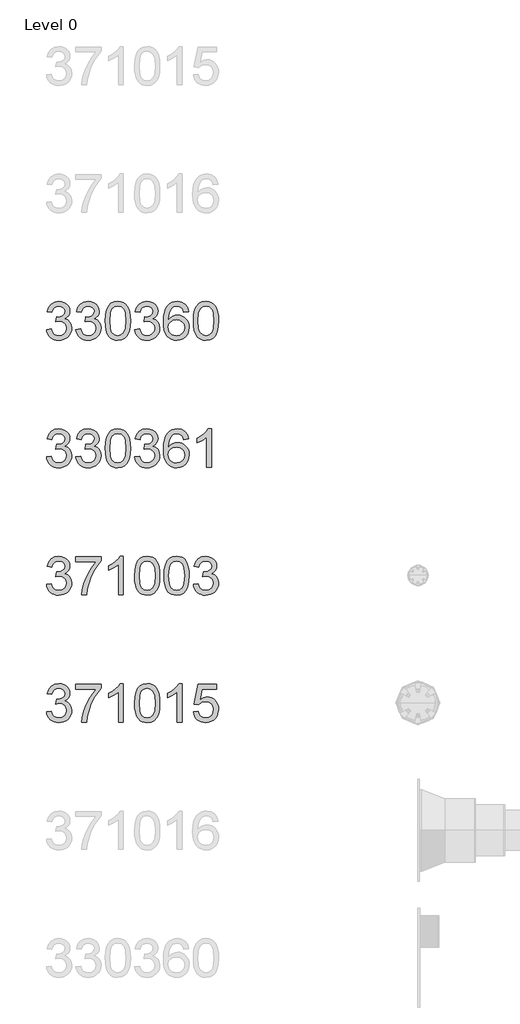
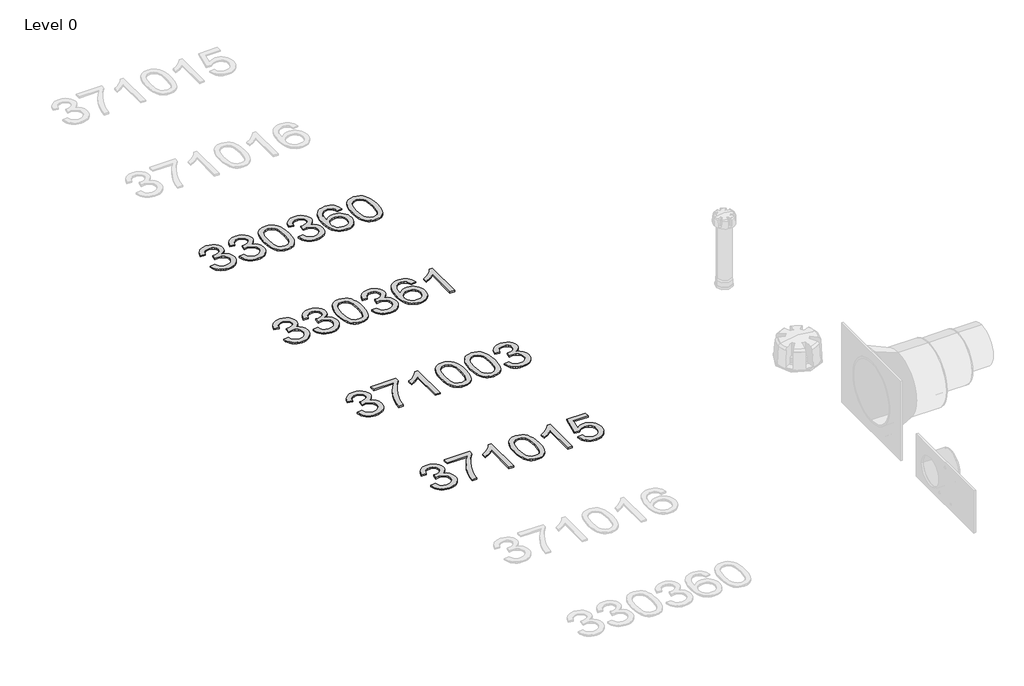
# One storey, part 12 of 25: 4 proxies.
"""IFC4 building model written with IfcOpenShell, lengths in millimetres."""

from ifc_helpers import new_model, si_unit, origin, origin_with_axes, place, context, project, spatial, polyline, outline, extrude, element, save

model = new_model("IFC4")

# Units and contexts
model_context = context("Model", 3, world=origin())
ifc_project = project(units=[si_unit("LENGTHUNIT", "METRE", prefix="MILLI")], contexts=[model_context])

# Site, building, storey
site = spatial("IfcSite", under=ifc_project)
building = spatial("IfcBuilding", under=site)
storey = spatial("IfcBuildingStorey", under=building, Name="Level 0", Elevation=0.0)

# Proxies
placement = place(None, origin())
element("IfcBuildingElementProxy", 1, Name="300mm Arial", ObjectType="300mm Arial", at=placement, inside=storey, context=model_context, shape_type="SweptSolid", body=[
    extrude(outline(polyline([(-3192.0538732, -4120.925676), (-3154.3827568, -4116.2167865), (-3145.9490621, -4139.8899929), (-3133.5974241, -4155.8744656), (-3116.7208376, -4164.979545), (-3094.7122972, -4168.0145714), (-3068.8869812, -4163.8391108), (-3048.947777, -4151.3127288), (-3036.2006659, -4132.6243235), (-3031.9516289, -4109.9627926), (-3036.1638777, -4088.4508929), (-3048.8006242, -4071.0040893), (-3067.930488, -4059.4433976), (-3091.6220885, -4055.5898337), (-3118.0360157, -4059.710112), (-3113.842161, -4022.0389957), (-3107.8088963, -4022.4804541), (-3085.2393359, -4019.7765215), (-3065.0610084, -4011.6647235), (-3050.8239752, -3997.942725), (-3046.0782975, -3978.4081911), (-3049.5179941, -3962.1386099), (-3059.8370841, -3948.9408433), (-3075.5824335, -3940.1944488), (-3095.3009084, -3937.278984), (-3115.0561716, -3940.22204), (-3131.2061912, -3949.0512079), (-3142.9968091, -3963.7664877), (-3149.6738673, -3984.3678794), (-3187.3449836, -3979.6589899), (-3176.2533415, -3945.8322404), (-3156.5164724, -3920.5771415), (-3129.513934, -3904.8501862), (-3096.6252836, -3899.6078677), (-3072.9428802, -3902.1922387), (-3051.1918572, -3909.9453518), (-3032.8529397, -3922.1774281), (-3019.4068528, -3938.198689), (-3011.1570991, -3956.6571681), (-3008.4071812, -3976.2008991), (-3011.0191433, -3994.4110579), (-3018.8550298, -4010.9289595), (-3031.8044761, -4025.0004458), (-3049.7571174, -4035.8713587), (-3026.1758815, -4045.3995024), (-3008.7014868, -4061.6230984), (-2997.8857561, -4083.6592299), (-2994.2805125, -4110.6249802), (-2996.0831343, -4129.7364498), (-3001.4909997, -4147.3396033), (-3010.5041085, -4163.4344406), (-3023.122461, -4178.0209617), (-3038.4953298, -4190.1242793), (-3055.771988, -4198.7695062), (-3074.9524356, -4203.9566423), (-3096.0366724, -4205.6856877), (-3115.0929598, -4204.2095612), (-3132.4569899, -4199.7811817), (-3148.1287629, -4192.4005492), (-3162.1082787, -4182.0676636), (-3173.8299188, -4169.3895304), (-3182.7280646, -4154.9731547), (-3188.802716, -4138.8185366), (-3192.0538732, -4120.925676)])), origin_with_axes(), (0.0, 0.0, 1.0), 10.0),
    extrude(outline(polyline([(-2961.3182858, -4120.925676), (-2923.6471695, -4116.2167865), (-2915.2134747, -4139.8899929), (-2902.8618367, -4155.8744656), (-2885.9852502, -4164.979545), (-2863.9767099, -4168.0145714), (-2838.1513938, -4163.8391108), (-2818.2121897, -4151.3127288), (-2805.4650785, -4132.6243235), (-2801.2160415, -4109.9627926), (-2805.4282903, -4088.4508929), (-2818.0650369, -4071.0040893), (-2837.1949006, -4059.4433976), (-2860.8865011, -4055.5898337), (-2887.3004284, -4059.710112), (-2883.1065736, -4022.0389957), (-2877.0733089, -4022.4804541), (-2854.5037485, -4019.7765215), (-2834.325421, -4011.6647235), (-2820.0883878, -3997.942725), (-2815.3427101, -3978.4081911), (-2818.7824067, -3962.1386099), (-2829.1014967, -3948.9408433), (-2844.8468461, -3940.1944488), (-2864.565321, -3937.278984), (-2884.3205842, -3940.22204), (-2900.4706038, -3949.0512079), (-2912.2612217, -3963.7664877), (-2918.9382799, -3984.3678794), (-2956.6093962, -3979.6589899), (-2945.5177541, -3945.8322404), (-2925.780885, -3920.5771415), (-2898.7783466, -3904.8501862), (-2865.8896962, -3899.6078677), (-2842.2072928, -3902.1922387), (-2820.4562698, -3909.9453518), (-2802.1173524, -3922.1774281), (-2788.6712654, -3938.198689), (-2780.4215117, -3956.6571681), (-2777.6715938, -3976.2008991), (-2780.283556, -3994.4110579), (-2788.1194425, -4010.9289595), (-2801.0688887, -4025.0004458), (-2819.02153, -4035.8713587), (-2795.4402942, -4045.3995024), (-2777.9658994, -4061.6230984), (-2767.1501687, -4083.6592299), (-2763.5449252, -4110.6249802), (-2765.3475469, -4129.7364498), (-2770.7554123, -4147.3396033), (-2779.7685212, -4163.4344406), (-2792.3868736, -4178.0209617), (-2807.7597425, -4190.1242793), (-2825.0364007, -4198.7695062), (-2844.2168482, -4203.9566423), (-2865.301085, -4205.6856877), (-2884.3573724, -4204.2095612), (-2901.7214026, -4199.7811817), (-2917.3931756, -4192.4005492), (-2931.3726914, -4182.0676636), (-2943.0943314, -4169.3895304), (-2951.9924772, -4154.9731547), (-2958.0671286, -4138.8185366), (-2961.3182858, -4120.925676)])), origin_with_axes(), (0.0, 0.0, 1.0), 10.0),
    extrude(outline(polyline([(-2730.5826984, -4052.7203541), (-2727.8143864, -4004.4818275), (-2719.5094504, -3966.0105679), (-2705.7506637, -3936.717964), (-2686.6208, -3916.0154047), (-2661.9819034, -3903.709752), (-2631.6960181, -3899.6078677), (-2608.4826642, -3902.0358889), (-2587.6973315, -3909.3199524), (-2570.3149072, -3921.1749497), (-2557.3102787, -3937.3157722), (-2547.4878294, -3957.6044643), (-2539.6519429, -3981.9030701), (-2534.5199891, -4012.7591724), (-2532.8093378, -4052.7203541), (-2535.5500587, -4100.6829692), (-2543.7722213, -4139.0622584), (-2557.4482344, -4168.3824534), (-2576.550507, -4189.1677861), (-2601.244586, -4201.5562123), (-2631.6960181, -4205.6856877), (-2652.4445626, -4203.892263), (-2670.8386624, -4198.5119888), (-2686.8783174, -4189.5448652), (-2700.5635276, -4176.9908921), (-2713.6969148, -4154.2971715), (-2723.0779057, -4126.0208417), (-2728.7065002, -4092.1619025), (-2730.5826984, -4052.7203541)]), holes=[polyline([(-2692.9115821, -4052.6467777), (-2688.4969982, -4111.9033701), (-2682.9787682, -4132.1713688), (-2675.2532463, -4146.1991691), (-2655.5347714, -4162.5607208), (-2631.6960181, -4168.0145714), (-2607.8572648, -4162.5423267), (-2588.1387899, -4146.1255927), (-2580.413268, -4132.0747997), (-2574.895038, -4111.8113996), (-2570.4804541, -4052.6467777), (-2574.7478852, -3994.7237576), (-2580.0821742, -3974.5224375), (-2587.5501787, -3960.1612441), (-2607.2318654, -3942.9995491), (-2632.1374765, -3937.278984), (-2655.7187124, -3942.3189674), (-2674.6646351, -3957.4389174), (-2682.6476744, -3973.0739022), (-2688.3498454, -3994.1535405), (-2692.9115821, -4052.6467777)])]), origin_with_axes(), (0.0, 0.0, 1.0), 10.0),
    extrude(outline(polyline([(-2499.847111, -4120.925676), (-2462.1759947, -4116.2167865), (-2453.7423, -4139.8899929), (-2441.390662, -4155.8744656), (-2424.5140755, -4164.979545), (-2402.5055351, -4168.0145714), (-2376.680219, -4163.8391108), (-2356.7410149, -4151.3127288), (-2343.9939038, -4132.6243235), (-2339.7448667, -4109.9627926), (-2343.9571156, -4088.4508929), (-2356.5938621, -4071.0040893), (-2375.7237259, -4059.4433976), (-2399.4153263, -4055.5898337), (-2425.8292536, -4059.710112), (-2421.6353989, -4022.0389957), (-2415.6021341, -4022.4804541), (-2393.0325737, -4019.7765215), (-2372.8542463, -4011.6647235), (-2358.6172131, -3997.942725), (-2353.8715353, -3978.4081911), (-2357.311232, -3962.1386099), (-2367.630322, -3948.9408433), (-2383.3756714, -3940.1944488), (-2403.0941463, -3937.278984), (-2422.8494094, -3940.22204), (-2438.999429, -3949.0512079), (-2450.790047, -3963.7664877), (-2457.4671052, -3984.3678794), (-2495.1382215, -3979.6589899), (-2484.0465793, -3945.8322404), (-2464.3097103, -3920.5771415), (-2437.3071719, -3904.8501862), (-2404.4185215, -3899.6078677), (-2380.736118, -3902.1922387), (-2358.9850951, -3909.9453518), (-2340.6461776, -3922.1774281), (-2327.2000907, -3938.198689), (-2318.950337, -3956.6571681), (-2316.200419, -3976.2008991), (-2318.8123812, -3994.4110579), (-2326.6482677, -4010.9289595), (-2339.5977139, -4025.0004458), (-2357.5503553, -4035.8713587), (-2333.9691194, -4045.3995024), (-2316.4947246, -4061.6230984), (-2305.678994, -4083.6592299), (-2302.0737504, -4110.6249802), (-2303.8763722, -4129.7364498), (-2309.2842375, -4147.3396033), (-2318.2973464, -4163.4344406), (-2330.9156988, -4178.0209617), (-2346.2885677, -4190.1242793), (-2363.5652259, -4198.7695062), (-2382.7456734, -4203.9566423), (-2403.8299103, -4205.6856877), (-2422.8861976, -4204.2095612), (-2440.2502278, -4199.7811817), (-2455.9220008, -4192.4005492), (-2469.9015166, -4182.0676636), (-2481.6231567, -4169.3895304), (-2490.5213025, -4154.9731547), (-2496.5959539, -4138.8185366), (-2499.847111, -4120.925676)])), origin_with_axes(), (0.0, 0.0, 1.0), 10.0),
    extrude(outline(polyline([(-2076.0470526, -3979.6589899), (-2113.7181689, -3984.3678794), (-2119.7882218, -3965.6978682), (-2127.9919903, -3952.950757), (-2145.080109, -3941.1969273), (-2165.736683, -3937.278984), (-2183.247866, -3939.5598524), (-2199.7289794, -3946.4024575), (-2213.8832391, -3960.8142347), (-2225.4439308, -3980.6522713), (-2233.2522262, -4008.7124704), (-2236.1492969, -4047.7907354), (-2221.0385439, -4030.1599908), (-2202.9295527, -4017.7347764), (-2182.8339987, -4010.3679394), (-2161.7635575, -4007.9123271), (-2143.6637633, -4009.5907887), (-2126.9619207, -4014.6261735), (-2111.6580297, -4023.0184815), (-2097.7520903, -4034.7677128), (-2086.1959971, -4049.1748914), (-2077.9416449, -4065.5410417), (-2072.9890335, -4083.8661635), (-2071.338163, -4104.150257), (-2074.4467659, -4131.1252043), (-2083.7725745, -4156.131983), (-2098.5430366, -4177.34038), (-2117.9856, -4192.9201825), (-2141.217348, -4202.4943114), (-2167.3553638, -4205.6856877), (-2189.8122603, -4203.5703662), (-2210.0940546, -4197.2244018), (-2228.2007465, -4186.6477945), (-2244.1323362, -4171.8405442), (-2257.1208699, -4152.1772515), (-2266.3983939, -4127.0325171), (-2271.9649084, -4096.406341), (-2273.8204132, -4060.2987232), (-2271.760274, -4019.8179082), (-2265.5798565, -3985.2691903), (-2255.2791606, -3956.6525696), (-2240.8581864, -3933.9680461), (-2225.2278002, -3918.9354681), (-2207.1050134, -3908.1979123), (-2186.4898261, -3901.7553789), (-2163.3822382, -3899.6078677), (-2130.328041, -3904.9237626), (-2103.8589314, -3920.8714471), (-2085.3176789, -3946.2001224), (-2076.0470526, -3979.6589899)]), holes=[polyline([(-2236.1492969, -4103.5616459), (-2233.9695961, -4120.2542914), (-2227.4304936, -4136.1927788), (-2217.2769505, -4149.8963831), (-2204.2539279, -4159.8843793), (-2188.5361697, -4165.9820234), (-2170.2984198, -4168.0145714), (-2145.4387939, -4163.8023226), (-2125.8950629, -4151.165576), (-2113.2307252, -4131.2999483), (-2109.0092794, -4105.4010558), (-2113.175543, -4080.54143), (-2125.6743337, -4061.5863102), (-2145.5491585, -4049.5841601), (-2171.8435241, -4045.5834434), (-2196.6663618, -4049.5841601), (-2217.4241033, -4061.5863102), (-2231.4679985, -4080.0815775), (-2236.1492969, -4103.5616459)])]), origin_with_axes(), (0.0, 0.0, 1.0), 10.0),
    extrude(outline(polyline([(-2038.3759363, -4052.7203541), (-2035.6076243, -4004.4818275), (-2027.3026882, -3966.0105679), (-2013.5439016, -3936.717964), (-1994.4140379, -3916.0154047), (-1969.7751412, -3903.709752), (-1939.489256, -3899.6078677), (-1916.2759021, -3902.0358889), (-1895.4905694, -3909.3199524), (-1878.1081451, -3921.1749497), (-1865.1035166, -3937.3157722), (-1855.2810673, -3957.6044643), (-1847.4451808, -3981.9030701), (-1842.313227, -4012.7591724), (-1840.6025757, -4052.7203541), (-1843.3432965, -4100.6829692), (-1851.5654591, -4139.0622584), (-1865.2414723, -4168.3824534), (-1884.3437449, -4189.1677861), (-1909.0378238, -4201.5562123), (-1939.489256, -4205.6856877), (-1960.2378005, -4203.892263), (-1978.6319003, -4198.5119888), (-1994.6715553, -4189.5448652), (-2008.3567655, -4176.9908921), (-2021.4901527, -4154.2971715), (-2030.8711436, -4126.0208417), (-2036.4997381, -4092.1619025), (-2038.3759363, -4052.7203541)]), holes=[polyline([(-2000.70482, -4052.6467777), (-1996.290236, -4111.9033701), (-1990.7720061, -4132.1713688), (-1983.0464842, -4146.1991691), (-1963.3280093, -4162.5607208), (-1939.489256, -4168.0145714), (-1915.6505027, -4162.5423267), (-1895.9320277, -4146.1255927), (-1888.2065058, -4132.0747997), (-1882.6882759, -4111.8113996), (-1878.273692, -4052.6467777), (-1882.5411231, -3994.7237576), (-1887.8754121, -3974.5224375), (-1895.3434166, -3960.1612441), (-1915.0251033, -3942.9995491), (-1939.9307144, -3937.278984), (-1963.5119503, -3942.3189674), (-1982.457873, -3957.4389174), (-1990.4409123, -3973.0739022), (-1996.1430832, -3994.1535405), (-2000.70482, -4052.6467777)])]), origin_with_axes(), (0.0, 0.0, 1.0), 10.0),
])
element("IfcBuildingElementProxy", 2, Name="300mm Arial", ObjectType="300mm Arial", at=placement, inside=storey, context=model_context, shape_type="SweptSolid", body=[
    extrude(outline(polyline([(-3192.0538732, -5120.925676), (-3154.3827568, -5116.2167865), (-3145.9490621, -5139.8899929), (-3133.5974241, -5155.8744656), (-3116.7208376, -5164.979545), (-3094.7122972, -5168.0145714), (-3068.8869812, -5163.8391108), (-3048.947777, -5151.3127288), (-3036.2006659, -5132.6243235), (-3031.9516289, -5109.9627926), (-3036.1638777, -5088.4508929), (-3048.8006242, -5071.0040893), (-3067.930488, -5059.4433976), (-3091.6220885, -5055.5898337), (-3118.0360157, -5059.710112), (-3113.842161, -5022.0389957), (-3107.8088963, -5022.4804541), (-3085.2393359, -5019.7765215), (-3065.0610084, -5011.6647235), (-3050.8239752, -4997.942725), (-3046.0782975, -4978.4081911), (-3049.5179941, -4962.1386099), (-3059.8370841, -4948.9408433), (-3075.5824335, -4940.1944488), (-3095.3009084, -4937.278984), (-3115.0561716, -4940.22204), (-3131.2061912, -4949.0512079), (-3142.9968091, -4963.7664877), (-3149.6738673, -4984.3678794), (-3187.3449836, -4979.6589899), (-3176.2533415, -4945.8322404), (-3156.5164724, -4920.5771415), (-3129.513934, -4904.8501862), (-3096.6252836, -4899.6078677), (-3072.9428802, -4902.1922387), (-3051.1918572, -4909.9453518), (-3032.8529397, -4922.1774281), (-3019.4068528, -4938.198689), (-3011.1570991, -4956.6571681), (-3008.4071812, -4976.2008991), (-3011.0191433, -4994.4110579), (-3018.8550298, -5010.9289595), (-3031.8044761, -5025.0004458), (-3049.7571174, -5035.8713587), (-3026.1758815, -5045.3995024), (-3008.7014868, -5061.6230984), (-2997.8857561, -5083.6592299), (-2994.2805125, -5110.6249802), (-2996.0831343, -5129.7364498), (-3001.4909997, -5147.3396033), (-3010.5041085, -5163.4344406), (-3023.122461, -5178.0209617), (-3038.4953298, -5190.1242793), (-3055.771988, -5198.7695062), (-3074.9524356, -5203.9566423), (-3096.0366724, -5205.6856877), (-3115.0929598, -5204.2095612), (-3132.4569899, -5199.7811817), (-3148.1287629, -5192.4005492), (-3162.1082787, -5182.0676636), (-3173.8299188, -5169.3895304), (-3182.7280646, -5154.9731547), (-3188.802716, -5138.8185366), (-3192.0538732, -5120.925676)])), origin_with_axes(), (0.0, 0.0, 1.0), 10.0),
    extrude(outline(polyline([(-2961.3182858, -5120.925676), (-2923.6471695, -5116.2167865), (-2915.2134747, -5139.8899929), (-2902.8618367, -5155.8744656), (-2885.9852502, -5164.979545), (-2863.9767099, -5168.0145714), (-2838.1513938, -5163.8391108), (-2818.2121897, -5151.3127288), (-2805.4650785, -5132.6243235), (-2801.2160415, -5109.9627926), (-2805.4282903, -5088.4508929), (-2818.0650369, -5071.0040893), (-2837.1949006, -5059.4433976), (-2860.8865011, -5055.5898337), (-2887.3004284, -5059.710112), (-2883.1065736, -5022.0389957), (-2877.0733089, -5022.4804541), (-2854.5037485, -5019.7765215), (-2834.325421, -5011.6647235), (-2820.0883878, -4997.942725), (-2815.3427101, -4978.4081911), (-2818.7824067, -4962.1386099), (-2829.1014967, -4948.9408433), (-2844.8468461, -4940.1944488), (-2864.565321, -4937.278984), (-2884.3205842, -4940.22204), (-2900.4706038, -4949.0512079), (-2912.2612217, -4963.7664877), (-2918.9382799, -4984.3678794), (-2956.6093962, -4979.6589899), (-2945.5177541, -4945.8322404), (-2925.780885, -4920.5771415), (-2898.7783466, -4904.8501862), (-2865.8896962, -4899.6078677), (-2842.2072928, -4902.1922387), (-2820.4562698, -4909.9453518), (-2802.1173524, -4922.1774281), (-2788.6712654, -4938.198689), (-2780.4215117, -4956.6571681), (-2777.6715938, -4976.2008991), (-2780.283556, -4994.4110579), (-2788.1194425, -5010.9289595), (-2801.0688887, -5025.0004458), (-2819.02153, -5035.8713587), (-2795.4402942, -5045.3995024), (-2777.9658994, -5061.6230984), (-2767.1501687, -5083.6592299), (-2763.5449252, -5110.6249802), (-2765.3475469, -5129.7364498), (-2770.7554123, -5147.3396033), (-2779.7685212, -5163.4344406), (-2792.3868736, -5178.0209617), (-2807.7597425, -5190.1242793), (-2825.0364007, -5198.7695062), (-2844.2168482, -5203.9566423), (-2865.301085, -5205.6856877), (-2884.3573724, -5204.2095612), (-2901.7214026, -5199.7811817), (-2917.3931756, -5192.4005492), (-2931.3726914, -5182.0676636), (-2943.0943314, -5169.3895304), (-2951.9924772, -5154.9731547), (-2958.0671286, -5138.8185366), (-2961.3182858, -5120.925676)])), origin_with_axes(), (0.0, 0.0, 1.0), 10.0),
    extrude(outline(polyline([(-2730.5826984, -5052.7203541), (-2727.8143864, -5004.4818275), (-2719.5094504, -4966.0105679), (-2705.7506637, -4936.717964), (-2686.6208, -4916.0154047), (-2661.9819034, -4903.709752), (-2631.6960181, -4899.6078677), (-2608.4826642, -4902.0358889), (-2587.6973315, -4909.3199524), (-2570.3149072, -4921.1749497), (-2557.3102787, -4937.3157722), (-2547.4878294, -4957.6044643), (-2539.6519429, -4981.9030701), (-2534.5199891, -5012.7591724), (-2532.8093378, -5052.7203541), (-2535.5500587, -5100.6829692), (-2543.7722213, -5139.0622584), (-2557.4482344, -5168.3824534), (-2576.550507, -5189.1677861), (-2601.244586, -5201.5562123), (-2631.6960181, -5205.6856877), (-2652.4445626, -5203.892263), (-2670.8386624, -5198.5119888), (-2686.8783174, -5189.5448652), (-2700.5635276, -5176.9908921), (-2713.6969148, -5154.2971715), (-2723.0779057, -5126.0208417), (-2728.7065002, -5092.1619025), (-2730.5826984, -5052.7203541)]), holes=[polyline([(-2692.9115821, -5052.6467777), (-2688.4969982, -5111.9033701), (-2682.9787682, -5132.1713688), (-2675.2532463, -5146.1991691), (-2655.5347714, -5162.5607208), (-2631.6960181, -5168.0145714), (-2607.8572648, -5162.5423267), (-2588.1387899, -5146.1255927), (-2580.413268, -5132.0747997), (-2574.895038, -5111.8113996), (-2570.4804541, -5052.6467777), (-2574.7478852, -4994.7237576), (-2580.0821742, -4974.5224375), (-2587.5501787, -4960.1612441), (-2607.2318654, -4942.9995491), (-2632.1374765, -4937.278984), (-2655.7187124, -4942.3189674), (-2674.6646351, -4957.4389174), (-2682.6476744, -4973.0739022), (-2688.3498454, -4994.1535405), (-2692.9115821, -5052.6467777)])]), origin_with_axes(), (0.0, 0.0, 1.0), 10.0),
    extrude(outline(polyline([(-2499.847111, -5120.925676), (-2462.1759947, -5116.2167865), (-2453.7423, -5139.8899929), (-2441.390662, -5155.8744656), (-2424.5140755, -5164.979545), (-2402.5055351, -5168.0145714), (-2376.680219, -5163.8391108), (-2356.7410149, -5151.3127288), (-2343.9939038, -5132.6243235), (-2339.7448667, -5109.9627926), (-2343.9571156, -5088.4508929), (-2356.5938621, -5071.0040893), (-2375.7237259, -5059.4433976), (-2399.4153263, -5055.5898337), (-2425.8292536, -5059.710112), (-2421.6353989, -5022.0389957), (-2415.6021341, -5022.4804541), (-2393.0325737, -5019.7765215), (-2372.8542463, -5011.6647235), (-2358.6172131, -4997.942725), (-2353.8715353, -4978.4081911), (-2357.311232, -4962.1386099), (-2367.630322, -4948.9408433), (-2383.3756714, -4940.1944488), (-2403.0941463, -4937.278984), (-2422.8494094, -4940.22204), (-2438.999429, -4949.0512079), (-2450.790047, -4963.7664877), (-2457.4671052, -4984.3678794), (-2495.1382215, -4979.6589899), (-2484.0465793, -4945.8322404), (-2464.3097103, -4920.5771415), (-2437.3071719, -4904.8501862), (-2404.4185215, -4899.6078677), (-2380.736118, -4902.1922387), (-2358.9850951, -4909.9453518), (-2340.6461776, -4922.1774281), (-2327.2000907, -4938.198689), (-2318.950337, -4956.6571681), (-2316.200419, -4976.2008991), (-2318.8123812, -4994.4110579), (-2326.6482677, -5010.9289595), (-2339.5977139, -5025.0004458), (-2357.5503553, -5035.8713587), (-2333.9691194, -5045.3995024), (-2316.4947246, -5061.6230984), (-2305.678994, -5083.6592299), (-2302.0737504, -5110.6249802), (-2303.8763722, -5129.7364498), (-2309.2842375, -5147.3396033), (-2318.2973464, -5163.4344406), (-2330.9156988, -5178.0209617), (-2346.2885677, -5190.1242793), (-2363.5652259, -5198.7695062), (-2382.7456734, -5203.9566423), (-2403.8299103, -5205.6856877), (-2422.8861976, -5204.2095612), (-2440.2502278, -5199.7811817), (-2455.9220008, -5192.4005492), (-2469.9015166, -5182.0676636), (-2481.6231567, -5169.3895304), (-2490.5213025, -5154.9731547), (-2496.5959539, -5138.8185366), (-2499.847111, -5120.925676)])), origin_with_axes(), (0.0, 0.0, 1.0), 10.0),
    extrude(outline(polyline([(-2076.0470526, -4979.6589899), (-2113.7181689, -4984.3678794), (-2119.7882218, -4965.6978682), (-2127.9919903, -4952.950757), (-2145.080109, -4941.1969273), (-2165.736683, -4937.278984), (-2183.247866, -4939.5598524), (-2199.7289794, -4946.4024575), (-2213.8832391, -4960.8142347), (-2225.4439308, -4980.6522713), (-2233.2522262, -5008.7124704), (-2236.1492969, -5047.7907354), (-2221.0385439, -5030.1599908), (-2202.9295527, -5017.7347764), (-2182.8339987, -5010.3679394), (-2161.7635575, -5007.9123271), (-2143.6637633, -5009.5907887), (-2126.9619207, -5014.6261735), (-2111.6580297, -5023.0184815), (-2097.7520903, -5034.7677128), (-2086.1959971, -5049.1748914), (-2077.9416449, -5065.5410417), (-2072.9890335, -5083.8661635), (-2071.338163, -5104.150257), (-2074.4467659, -5131.1252043), (-2083.7725745, -5156.131983), (-2098.5430366, -5177.34038), (-2117.9856, -5192.9201825), (-2141.217348, -5202.4943114), (-2167.3553638, -5205.6856877), (-2189.8122603, -5203.5703662), (-2210.0940546, -5197.2244018), (-2228.2007465, -5186.6477945), (-2244.1323362, -5171.8405442), (-2257.1208699, -5152.1772515), (-2266.3983939, -5127.0325171), (-2271.9649084, -5096.406341), (-2273.8204132, -5060.2987232), (-2271.760274, -5019.8179082), (-2265.5798565, -4985.2691903), (-2255.2791606, -4956.6525696), (-2240.8581864, -4933.9680461), (-2225.2278002, -4918.9354681), (-2207.1050134, -4908.1979123), (-2186.4898261, -4901.7553789), (-2163.3822382, -4899.6078677), (-2130.328041, -4904.9237626), (-2103.8589314, -4920.8714471), (-2085.3176789, -4946.2001224), (-2076.0470526, -4979.6589899)]), holes=[polyline([(-2236.1492969, -5103.5616459), (-2233.9695961, -5120.2542914), (-2227.4304936, -5136.1927788), (-2217.2769505, -5149.8963831), (-2204.2539279, -5159.8843793), (-2188.5361697, -5165.9820234), (-2170.2984198, -5168.0145714), (-2145.4387939, -5163.8023226), (-2125.8950629, -5151.165576), (-2113.2307252, -5131.2999483), (-2109.0092794, -5105.4010558), (-2113.175543, -5080.54143), (-2125.6743337, -5061.5863102), (-2145.5491585, -5049.5841601), (-2171.8435241, -5045.5834434), (-2196.6663618, -5049.5841601), (-2217.4241033, -5061.5863102), (-2231.4679985, -5080.0815775), (-2236.1492969, -5103.5616459)])]), origin_with_axes(), (0.0, 0.0, 1.0), 10.0),
    extrude(outline(polyline([(-1897.1092501, -5200.9767982), (-1934.7803664, -5200.9767982), (-1934.7803664, -4966.1209325), (-1970.46492, -4991.5415783), (-2010.1225991, -5010.5610775), (-2010.1225991, -4974.9501003), (-1980.5356896, -4958.8552631), (-1954.9035116, -4939.7070052), (-1934.697593, -4919.3447368), (-1921.3894618, -4899.6078677), (-1897.1092501, -4899.6078677), (-1897.1092501, -5200.9767982)])), origin_with_axes(), (0.0, 0.0, 1.0), 10.0),
])
element("IfcBuildingElementProxy", 3, Name="300mm Arial", ObjectType="300mm Arial", at=placement, inside=storey, context=model_context, shape_type="SweptSolid", body=[
    extrude(outline(polyline([(-3192.0538732, -6120.925676), (-3154.3827568, -6116.2167865), (-3145.9490621, -6139.8899929), (-3133.5974241, -6155.8744656), (-3116.7208376, -6164.979545), (-3094.7122972, -6168.0145714), (-3068.8869812, -6163.8391108), (-3048.947777, -6151.3127288), (-3036.2006659, -6132.6243235), (-3031.9516289, -6109.9627926), (-3036.1638777, -6088.4508929), (-3048.8006242, -6071.0040893), (-3067.930488, -6059.4433976), (-3091.6220885, -6055.5898337), (-3118.0360157, -6059.710112), (-3113.842161, -6022.0389957), (-3107.8088963, -6022.4804541), (-3085.2393359, -6019.7765215), (-3065.0610084, -6011.6647235), (-3050.8239752, -5997.942725), (-3046.0782975, -5978.4081911), (-3049.5179941, -5962.1386099), (-3059.8370841, -5948.9408433), (-3075.5824335, -5940.1944488), (-3095.3009084, -5937.278984), (-3115.0561716, -5940.22204), (-3131.2061912, -5949.0512079), (-3142.9968091, -5963.7664877), (-3149.6738673, -5984.3678794), (-3187.3449836, -5979.6589899), (-3176.2533415, -5945.8322404), (-3156.5164724, -5920.5771415), (-3129.513934, -5904.8501862), (-3096.6252836, -5899.6078677), (-3072.9428802, -5902.1922387), (-3051.1918572, -5909.9453518), (-3032.8529397, -5922.1774281), (-3019.4068528, -5938.198689), (-3011.1570991, -5956.6571681), (-3008.4071812, -5976.2008991), (-3011.0191433, -5994.4110579), (-3018.8550298, -6010.9289595), (-3031.8044761, -6025.0004458), (-3049.7571174, -6035.8713587), (-3026.1758815, -6045.3995024), (-3008.7014868, -6061.6230984), (-2997.8857561, -6083.6592299), (-2994.2805125, -6110.6249802), (-2996.0831343, -6129.7364498), (-3001.4909997, -6147.3396033), (-3010.5041085, -6163.4344406), (-3023.122461, -6178.0209617), (-3038.4953298, -6190.1242793), (-3055.771988, -6198.7695062), (-3074.9524356, -6203.9566423), (-3096.0366724, -6205.6856877), (-3115.0929598, -6204.2095612), (-3132.4569899, -6199.7811817), (-3148.1287629, -6192.4005492), (-3162.1082787, -6182.0676636), (-3173.8299188, -6169.3895304), (-3182.7280646, -6154.9731547), (-3188.802716, -6138.8185366), (-3192.0538732, -6120.925676)])), origin_with_axes(), (0.0, 0.0, 1.0), 10.0),
    extrude(outline(polyline([(-2961.3182858, -5941.9878736), (-2961.3182858, -5904.3167573), (-2763.5449252, -5904.3167573), (-2763.5449252, -5934.7773865), (-2791.7338831, -5970.452743), (-2819.6469294, -6015.82179), (-2844.267432, -6066.7458552), (-2862.5787583, -6119.0862661), (-2871.555079, -6158.2473044), (-2876.5582741, -6200.9767982), (-2914.2293904, -6200.9767982), (-2910.1550973, -6162.1468536), (-2899.2565932, -6115.9960573), (-2881.8281837, -6067.076949), (-2858.1641743, -6019.9420684), (-2830.5362365, -5977.3321363), (-2801.2160415, -5941.9878736), (-2961.3182858, -5941.9878736)])), origin_with_axes(), (0.0, 0.0, 1.0), 10.0),
    extrude(outline(polyline([(-2589.3160123, -6200.9767982), (-2626.9871286, -6200.9767982), (-2626.9871286, -5966.1209325), (-2662.6716821, -5991.5415783), (-2702.3293612, -6010.5610775), (-2702.3293612, -5974.9501003), (-2672.7424517, -5958.8552631), (-2647.1102737, -5939.7070052), (-2626.9043551, -5919.3447368), (-2613.5962239, -5899.6078677), (-2589.3160123, -5899.6078677), (-2589.3160123, -6200.9767982)])), origin_with_axes(), (0.0, 0.0, 1.0), 10.0),
    extrude(outline(polyline([(-2499.847111, -6052.7203541), (-2497.078799, -6004.4818275), (-2488.773863, -5966.0105679), (-2475.0150764, -5936.717964), (-2455.8852126, -5916.0154047), (-2431.246316, -5903.709752), (-2400.9604307, -5899.6078677), (-2377.7470768, -5902.0358889), (-2356.9617441, -5909.3199524), (-2339.5793198, -5921.1749497), (-2326.5746913, -5937.3157722), (-2316.752242, -5957.6044643), (-2308.9163555, -5981.9030701), (-2303.7844017, -6012.7591724), (-2302.0737504, -6052.7203541), (-2304.8144713, -6100.6829692), (-2313.0366339, -6139.0622584), (-2326.7126471, -6168.3824534), (-2345.8149197, -6189.1677861), (-2370.5089986, -6201.5562123), (-2400.9604307, -6205.6856877), (-2421.7089753, -6203.892263), (-2440.103075, -6198.5119888), (-2456.14273, -6189.5448652), (-2469.8279402, -6176.9908921), (-2482.9613275, -6154.2971715), (-2492.3423183, -6126.0208417), (-2497.9709129, -6092.1619025), (-2499.847111, -6052.7203541)]), holes=[polyline([(-2462.1759947, -6052.6467777), (-2457.7614108, -6111.9033701), (-2452.2431809, -6132.1713688), (-2444.517659, -6146.1991691), (-2424.799184, -6162.5607208), (-2400.9604307, -6168.0145714), (-2377.1216774, -6162.5423267), (-2357.4032025, -6146.1255927), (-2349.6776806, -6132.0747997), (-2344.1594507, -6111.8113996), (-2339.7448667, -6052.6467777), (-2344.0122979, -5994.7237576), (-2349.3465868, -5974.5224375), (-2356.8145913, -5960.1612441), (-2376.496278, -5942.9995491), (-2401.4018891, -5937.278984), (-2424.983125, -5942.3189674), (-2443.9290478, -5957.4389174), (-2451.9120871, -5973.0739022), (-2457.614258, -5994.1535405), (-2462.1759947, -6052.6467777)])]), origin_with_axes(), (0.0, 0.0, 1.0), 10.0),
    extrude(outline(polyline([(-2269.1115237, -6052.7203541), (-2266.3432116, -6004.4818275), (-2258.0382756, -5966.0105679), (-2244.279489, -5936.717964), (-2225.1496252, -5916.0154047), (-2200.5107286, -5903.709752), (-2170.2248434, -5899.6078677), (-2147.0114895, -5902.0358889), (-2126.2261567, -5909.3199524), (-2108.8437325, -5921.1749497), (-2095.8391039, -5937.3157722), (-2086.0166547, -5957.6044643), (-2078.1807682, -5981.9030701), (-2073.0488143, -6012.7591724), (-2071.338163, -6052.7203541), (-2074.0788839, -6100.6829692), (-2082.3010465, -6139.0622584), (-2095.9770597, -6168.3824534), (-2115.0793323, -6189.1677861), (-2139.7734112, -6201.5562123), (-2170.2248434, -6205.6856877), (-2190.9733879, -6203.892263), (-2209.3674876, -6198.5119888), (-2225.4071426, -6189.5448652), (-2239.0923528, -6176.9908921), (-2252.2257401, -6154.2971715), (-2261.606731, -6126.0208417), (-2267.2353255, -6092.1619025), (-2269.1115237, -6052.7203541)]), holes=[polyline([(-2231.4404073, -6052.6467777), (-2227.0258234, -6111.9033701), (-2221.5075935, -6132.1713688), (-2213.7820716, -6146.1991691), (-2194.0635966, -6162.5607208), (-2170.2248434, -6168.0145714), (-2146.3860901, -6162.5423267), (-2126.6676151, -6146.1255927), (-2118.9420932, -6132.0747997), (-2113.4238633, -6111.8113996), (-2109.0092794, -6052.6467777), (-2113.2767105, -5994.7237576), (-2118.6109994, -5974.5224375), (-2126.0790039, -5960.1612441), (-2145.7606907, -5942.9995491), (-2170.6663017, -5937.278984), (-2194.2475376, -5942.3189674), (-2213.1934604, -5957.4389174), (-2221.1764997, -5973.0739022), (-2226.8786706, -5994.1535405), (-2231.4404073, -6052.6467777)])]), origin_with_axes(), (0.0, 0.0, 1.0), 10.0),
    extrude(outline(polyline([(-2038.3759363, -6120.925676), (-2000.70482, -6116.2167865), (-1992.2711252, -6139.8899929), (-1979.9194872, -6155.8744656), (-1963.0429007, -6164.979545), (-1941.0343604, -6168.0145714), (-1915.2090443, -6163.8391108), (-1895.2698402, -6151.3127288), (-1882.522729, -6132.6243235), (-1878.273692, -6109.9627926), (-1882.4859408, -6088.4508929), (-1895.1226874, -6071.0040893), (-1914.2525511, -6059.4433976), (-1937.9441516, -6055.5898337), (-1964.3580789, -6059.710112), (-1960.1642241, -6022.0389957), (-1954.1309594, -6022.4804541), (-1931.561399, -6019.7765215), (-1911.3830715, -6011.6647235), (-1897.1460383, -5997.942725), (-1892.4003606, -5978.4081911), (-1895.8400572, -5962.1386099), (-1906.1591472, -5948.9408433), (-1921.9044966, -5940.1944488), (-1941.6229715, -5937.278984), (-1961.3782347, -5940.22204), (-1977.5282543, -5949.0512079), (-1989.3188722, -5963.7664877), (-1995.9959304, -5984.3678794), (-2033.6670467, -5979.6589899), (-2022.5754046, -5945.8322404), (-2002.8385355, -5920.5771415), (-1975.8359971, -5904.8501862), (-1942.9473467, -5899.6078677), (-1919.2649433, -5902.1922387), (-1897.5139203, -5909.9453518), (-1879.1750029, -5922.1774281), (-1865.7289159, -5938.198689), (-1857.4791622, -5956.6571681), (-1854.7292443, -5976.2008991), (-1857.3412065, -5994.4110579), (-1865.177093, -6010.9289595), (-1878.1265392, -6025.0004458), (-1896.0791805, -6035.8713587), (-1872.4979447, -6045.3995024), (-1855.0235499, -6061.6230984), (-1844.2078192, -6083.6592299), (-1840.6025757, -6110.6249802), (-1842.4051975, -6129.7364498), (-1847.8130628, -6147.3396033), (-1856.8261717, -6163.4344406), (-1869.4445241, -6178.0209617), (-1884.817393, -6190.1242793), (-1902.0940512, -6198.7695062), (-1921.2744987, -6203.9566423), (-1942.3587355, -6205.6856877), (-1961.4150229, -6204.2095612), (-1978.7790531, -6199.7811817), (-1994.4508261, -6192.4005492), (-2008.4303419, -6182.0676636), (-2020.1519819, -6169.3895304), (-2029.0501277, -6154.9731547), (-2035.1247791, -6138.8185366), (-2038.3759363, -6120.925676)])), origin_with_axes(), (0.0, 0.0, 1.0), 10.0),
])
element("IfcBuildingElementProxy", 4, Name="300mm Arial", ObjectType="300mm Arial", at=placement, inside=storey, context=model_context, shape_type="SweptSolid", body=[
    extrude(outline(polyline([(-3192.0538732, -7120.925676), (-3154.3827568, -7116.2167865), (-3145.9490621, -7139.8899929), (-3133.5974241, -7155.8744656), (-3116.7208376, -7164.979545), (-3094.7122972, -7168.0145714), (-3068.8869812, -7163.8391108), (-3048.947777, -7151.3127288), (-3036.2006659, -7132.6243235), (-3031.9516289, -7109.9627926), (-3036.1638777, -7088.4508929), (-3048.8006242, -7071.0040893), (-3067.930488, -7059.4433976), (-3091.6220885, -7055.5898337), (-3118.0360157, -7059.710112), (-3113.842161, -7022.0389957), (-3107.8088963, -7022.4804541), (-3085.2393359, -7019.7765215), (-3065.0610084, -7011.6647235), (-3050.8239752, -6997.942725), (-3046.0782975, -6978.4081911), (-3049.5179941, -6962.1386099), (-3059.8370841, -6948.9408433), (-3075.5824335, -6940.1944488), (-3095.3009084, -6937.278984), (-3115.0561716, -6940.22204), (-3131.2061912, -6949.0512079), (-3142.9968091, -6963.7664877), (-3149.6738673, -6984.3678794), (-3187.3449836, -6979.6589899), (-3176.2533415, -6945.8322404), (-3156.5164724, -6920.5771415), (-3129.513934, -6904.8501862), (-3096.6252836, -6899.6078677), (-3072.9428802, -6902.1922387), (-3051.1918572, -6909.9453518), (-3032.8529397, -6922.1774281), (-3019.4068528, -6938.198689), (-3011.1570991, -6956.6571681), (-3008.4071812, -6976.2008991), (-3011.0191433, -6994.4110579), (-3018.8550298, -7010.9289595), (-3031.8044761, -7025.0004458), (-3049.7571174, -7035.8713587), (-3026.1758815, -7045.3995024), (-3008.7014868, -7061.6230984), (-2997.8857561, -7083.6592299), (-2994.2805125, -7110.6249802), (-2996.0831343, -7129.7364498), (-3001.4909997, -7147.3396033), (-3010.5041085, -7163.4344406), (-3023.122461, -7178.0209617), (-3038.4953298, -7190.1242793), (-3055.771988, -7198.7695062), (-3074.9524356, -7203.9566423), (-3096.0366724, -7205.6856877), (-3115.0929598, -7204.2095612), (-3132.4569899, -7199.7811817), (-3148.1287629, -7192.4005492), (-3162.1082787, -7182.0676636), (-3173.8299188, -7169.3895304), (-3182.7280646, -7154.9731547), (-3188.802716, -7138.8185366), (-3192.0538732, -7120.925676)])), origin_with_axes(), (0.0, 0.0, 1.0), 10.0),
    extrude(outline(polyline([(-2961.3182858, -6941.9878736), (-2961.3182858, -6904.3167573), (-2763.5449252, -6904.3167573), (-2763.5449252, -6934.7773865), (-2791.7338831, -6970.452743), (-2819.6469294, -7015.82179), (-2844.267432, -7066.7458552), (-2862.5787583, -7119.0862661), (-2871.555079, -7158.2473044), (-2876.5582741, -7200.9767982), (-2914.2293904, -7200.9767982), (-2910.1550973, -7162.1468536), (-2899.2565932, -7115.9960573), (-2881.8281837, -7067.076949), (-2858.1641743, -7019.9420684), (-2830.5362365, -6977.3321363), (-2801.2160415, -6941.9878736), (-2961.3182858, -6941.9878736)])), origin_with_axes(), (0.0, 0.0, 1.0), 10.0),
    extrude(outline(polyline([(-2589.3160123, -7200.9767982), (-2626.9871286, -7200.9767982), (-2626.9871286, -6966.1209325), (-2662.6716821, -6991.5415783), (-2702.3293612, -7010.5610775), (-2702.3293612, -6974.9501003), (-2672.7424517, -6958.8552631), (-2647.1102737, -6939.7070052), (-2626.9043551, -6919.3447368), (-2613.5962239, -6899.6078677), (-2589.3160123, -6899.6078677), (-2589.3160123, -7200.9767982)])), origin_with_axes(), (0.0, 0.0, 1.0), 10.0),
    extrude(outline(polyline([(-2499.847111, -7052.7203541), (-2497.078799, -7004.4818275), (-2488.773863, -6966.0105679), (-2475.0150764, -6936.717964), (-2455.8852126, -6916.0154047), (-2431.246316, -6903.709752), (-2400.9604307, -6899.6078677), (-2377.7470768, -6902.0358889), (-2356.9617441, -6909.3199524), (-2339.5793198, -6921.1749497), (-2326.5746913, -6937.3157722), (-2316.752242, -6957.6044643), (-2308.9163555, -6981.9030701), (-2303.7844017, -7012.7591724), (-2302.0737504, -7052.7203541), (-2304.8144713, -7100.6829692), (-2313.0366339, -7139.0622584), (-2326.7126471, -7168.3824534), (-2345.8149197, -7189.1677861), (-2370.5089986, -7201.5562123), (-2400.9604307, -7205.6856877), (-2421.7089753, -7203.892263), (-2440.103075, -7198.5119888), (-2456.14273, -7189.5448652), (-2469.8279402, -7176.9908921), (-2482.9613275, -7154.2971715), (-2492.3423183, -7126.0208417), (-2497.9709129, -7092.1619025), (-2499.847111, -7052.7203541)]), holes=[polyline([(-2462.1759947, -7052.6467777), (-2457.7614108, -7111.9033701), (-2452.2431809, -7132.1713688), (-2444.517659, -7146.1991691), (-2424.799184, -7162.5607208), (-2400.9604307, -7168.0145714), (-2377.1216774, -7162.5423267), (-2357.4032025, -7146.1255927), (-2349.6776806, -7132.0747997), (-2344.1594507, -7111.8113996), (-2339.7448667, -7052.6467777), (-2344.0122979, -6994.7237576), (-2349.3465868, -6974.5224375), (-2356.8145913, -6960.1612441), (-2376.496278, -6942.9995491), (-2401.4018891, -6937.278984), (-2424.983125, -6942.3189674), (-2443.9290478, -6957.4389174), (-2451.9120871, -6973.0739022), (-2457.614258, -6994.1535405), (-2462.1759947, -7052.6467777)])]), origin_with_axes(), (0.0, 0.0, 1.0), 10.0),
    extrude(outline(polyline([(-2127.8448375, -7200.9767982), (-2165.5159538, -7200.9767982), (-2165.5159538, -6966.1209325), (-2201.2005073, -6991.5415783), (-2240.8581864, -7010.5610775), (-2240.8581864, -6974.9501003), (-2211.271277, -6958.8552631), (-2185.639099, -6939.7070052), (-2165.4331804, -6919.3447368), (-2152.1250492, -6899.6078677), (-2127.8448375, -6899.6078677), (-2127.8448375, -7200.9767982)])), origin_with_axes(), (0.0, 0.0, 1.0), 10.0),
    extrude(outline(polyline([(-2038.3759363, -7120.925676), (-2000.70482, -7116.2167865), (-1993.7886385, -7138.8323321), (-1981.722109, -7155.028337), (-1964.5604139, -7164.7680128), (-1942.3587355, -7168.0145714), (-1915.3561971, -7163.4988199), (-1895.1226874, -7149.9515654), (-1882.4859408, -7128.9363065), (-1878.273692, -7102.0165415), (-1882.2192264, -7076.669472), (-1894.0558296, -7057.2820909), (-1913.8754721, -7044.9764381), (-1941.7701243, -7040.8745539), (-1960.0446625, -7042.5116288), (-1974.8427157, -7047.4228534), (-1995.9959304, -7064.4190016), (-2033.6670467, -7059.710112), (-2000.70482, -6904.3167573), (-1854.7292443, -6904.3167573), (-1854.7292443, -6941.9878736), (-1970.2441908, -6941.9878736), (-1986.3574222, -7024.9820517), (-1959.4468542, -7008.6480911), (-1931.2486993, -7003.2034376), (-1912.902884, -7004.8910962), (-1896.0515894, -7009.9540722), (-1880.6948154, -7018.3923654), (-1866.8325619, -7030.205976), (-1855.3569429, -7044.6729355), (-1847.1600722, -7061.0712754), (-1842.2419498, -7079.4009958), (-1840.6025757, -7099.6620967), (-1846.5070817, -7137.333213), (-1853.8877142, -7154.1270261), (-1864.2205998, -7169.5596758), (-1879.8739787, -7185.364806), (-1898.1393197, -7196.6541847), (-1919.0166229, -7203.427812), (-1942.5058883, -7205.6856877), (-1979.50562, -7199.8823492), (-1995.1842908, -7192.6281762), (-2008.9821649, -7182.4723338), (-2020.4623824, -7169.92066), (-2029.1880835, -7155.4789924), (-2038.3759363, -7120.925676)])), origin_with_axes(), (0.0, 0.0, 1.0), 10.0),
])

save(model, "model.ifc")
